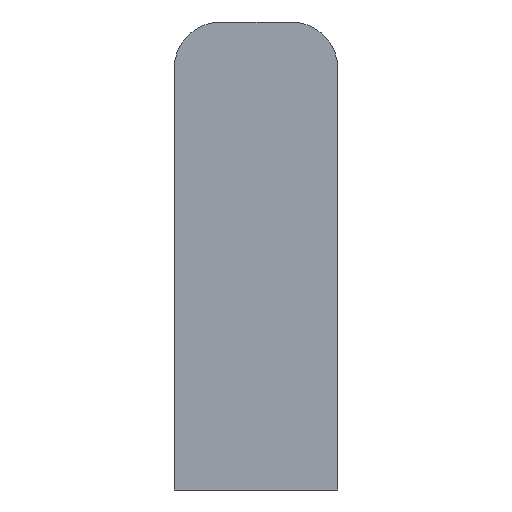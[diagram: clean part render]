
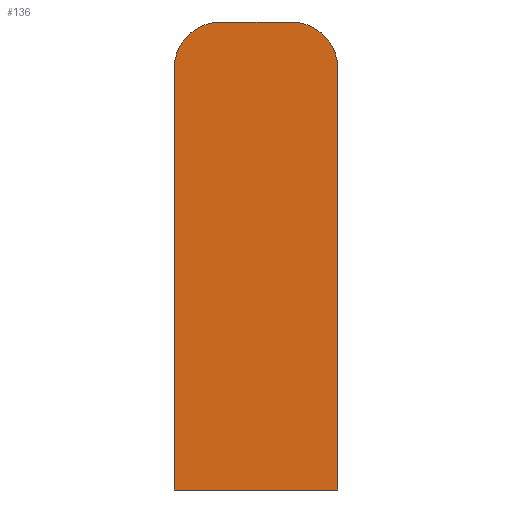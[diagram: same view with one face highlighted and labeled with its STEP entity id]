
A CAD part, front view. The second image highlights one B-rep face of the part: STEP entity #136.
In plain terms, the highlighted planar face has unit normal (0, -1, 0).
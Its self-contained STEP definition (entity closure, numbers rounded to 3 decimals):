
#6 = ORIENTED_EDGE ( 'NONE', *, *, #240, .T. ) ;
#8 = LINE ( 'NONE', #167, #72 ) ;
#12 = FACE_OUTER_BOUND ( 'NONE', #54, .T. ) ;
#21 = CIRCLE ( 'NONE', #264, 3. ) ;
#32 = VECTOR ( 'NONE', #162, 1000. ) ;
#33 = LINE ( 'NONE', #159, #41 ) ;
#37 = LINE ( 'NONE', #161, #32 ) ;
#39 = ORIENTED_EDGE ( 'NONE', *, *, #230, .T. ) ;
#40 = ORIENTED_EDGE ( 'NONE', *, *, #231, .T. ) ;
#41 = VECTOR ( 'NONE', #160, 1000. ) ;
#45 = CIRCLE ( 'NONE', #236, 3. ) ;
#47 = ORIENTED_EDGE ( 'NONE', *, *, #254, .T. ) ;
#51 = ORIENTED_EDGE ( 'NONE', *, *, #249, .T. ) ;
#52 = ORIENTED_EDGE ( 'NONE', *, *, #265, .T. ) ;
#54 = EDGE_LOOP ( 'NONE', ( #6, #51, #52, #47, #39, #40 ) ) ;
#64 = LINE ( 'NONE', #198, #90 ) ;
#72 = VECTOR ( 'NONE', #170, 1000. ) ;
#90 = VECTOR ( 'NONE', #199, 1000. ) ;
#105 = CARTESIAN_POINT ( 'NONE',  ( 2.25, 0., 13.5 ) ) ;
#108 = CARTESIAN_POINT ( 'NONE',  ( -5.25, 0., 10.5 ) ) ;
#109 = CARTESIAN_POINT ( 'NONE',  ( -2.25, 0., 13.5 ) ) ;
#111 = CARTESIAN_POINT ( 'NONE',  ( -5.25, 0., -16.5 ) ) ;
#112 = VERTEX_POINT ( 'NONE', #119 ) ;
#114 = VERTEX_POINT ( 'NONE', #126 ) ;
#115 = VERTEX_POINT ( 'NONE', #109 ) ;
#117 = VERTEX_POINT ( 'NONE', #108 ) ;
#118 = VERTEX_POINT ( 'NONE', #111 ) ;
#119 = CARTESIAN_POINT ( 'NONE',  ( 5.25, 0., 10.5 ) ) ;
#123 = VERTEX_POINT ( 'NONE', #105 ) ;
#126 = CARTESIAN_POINT ( 'NONE',  ( 5.25, 0., -16.5 ) ) ;
#136 = ADVANCED_FACE ( 'NONE', ( #12 ), #150, .F. ) ;
#150 = PLANE ( 'NONE',  #243 ) ;
#153 = CARTESIAN_POINT ( 'NONE',  ( 0., 0., -1.5 ) ) ;
#156 = DIRECTION ( 'NONE',  ( 0., 1., 0. ) ) ;
#157 = DIRECTION ( 'NONE',  ( -1., 0., 0. ) ) ;
#159 = CARTESIAN_POINT ( 'NONE',  ( -5.25, 0., -16.5 ) ) ;
#160 = DIRECTION ( 'NONE',  ( 0., 0., -1. ) ) ;
#161 = CARTESIAN_POINT ( 'NONE',  ( 5.25, 0., -16.5 ) ) ;
#162 = DIRECTION ( 'NONE',  ( 1., 0., 0. ) ) ;
#167 = CARTESIAN_POINT ( 'NONE',  ( 5.25, 0., -16.5 ) ) ;
#170 = DIRECTION ( 'NONE',  ( 0., 0., 1. ) ) ;
#179 = CARTESIAN_POINT ( 'NONE',  ( 2.25, 0., 10.5 ) ) ;
#180 = DIRECTION ( 'NONE',  ( 0., -1., 0. ) ) ;
#181 = DIRECTION ( 'NONE',  ( -1., 0., 0. ) ) ;
#189 = CARTESIAN_POINT ( 'NONE',  ( -2.25, 0., 10.5 ) ) ;
#191 = DIRECTION ( 'NONE',  ( -1., 0., 0. ) ) ;
#198 = CARTESIAN_POINT ( 'NONE',  ( 2.25, 0., 13.5 ) ) ;
#199 = DIRECTION ( 'NONE',  ( -1., 0., 0. ) ) ;
#222 = DIRECTION ( 'NONE',  ( 0., -1., 0. ) ) ;
#230 = EDGE_CURVE ( 'NONE', #117, #118, #33, .T. ) ;
#231 = EDGE_CURVE ( 'NONE', #118, #114, #37, .T. ) ;
#236 = AXIS2_PLACEMENT_3D ( 'NONE', #179, #180, #181 ) ;
#240 = EDGE_CURVE ( 'NONE', #114, #112, #8, .T. ) ;
#243 = AXIS2_PLACEMENT_3D ( 'NONE', #153, #156, #157 ) ;
#249 = EDGE_CURVE ( 'NONE', #112, #123, #45, .T. ) ;
#254 = EDGE_CURVE ( 'NONE', #115, #117, #21, .T. ) ;
#264 = AXIS2_PLACEMENT_3D ( 'NONE', #189, #222, #191 ) ;
#265 = EDGE_CURVE ( 'NONE', #123, #115, #64, .T. ) ;
